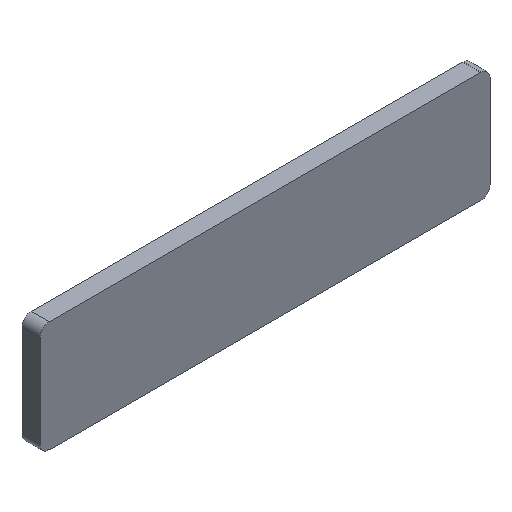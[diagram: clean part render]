
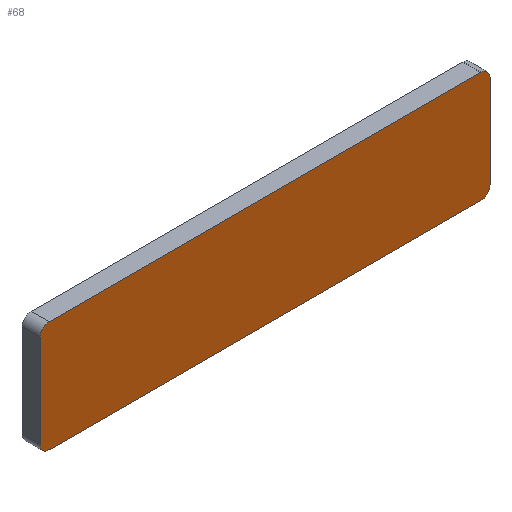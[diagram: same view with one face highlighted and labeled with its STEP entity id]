
A CAD part, isometric view. The second image highlights one B-rep face of the part: STEP entity #68.
In plain terms, the highlighted planar face has unit normal (0, -1, 0).
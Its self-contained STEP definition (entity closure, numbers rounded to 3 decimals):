
#4 = CARTESIAN_POINT ( 'NONE',  ( -7.5, 0., -1.85 ) ) ;
#8 = VERTEX_POINT ( 'NONE', #377 ) ;
#12 = LINE ( 'NONE', #172, #45 ) ;
#17 = VERTEX_POINT ( 'NONE', #298 ) ;
#19 = ORIENTED_EDGE ( 'NONE', *, *, #224, .F. ) ;
#25 = EDGE_CURVE ( 'NONE', #128, #144, #358, .T. ) ;
#26 = DIRECTION ( 'NONE',  ( 0., 0., 1. ) ) ;
#31 = PLANE ( 'NONE',  #137 ) ;
#35 = CIRCLE ( 'NONE', #235, 0.3 ) ;
#43 = CARTESIAN_POINT ( 'NONE',  ( -7.2, 0., 1.85 ) ) ;
#45 = VECTOR ( 'NONE', #74, 1000. ) ;
#50 = VERTEX_POINT ( 'NONE', #277 ) ;
#60 = CARTESIAN_POINT ( 'NONE',  ( 7.5, 0., -1.85 ) ) ;
#63 = DIRECTION ( 'NONE',  ( 0., -1., 0. ) ) ;
#65 = FACE_OUTER_BOUND ( 'NONE', #86, .T. ) ;
#68 = ADVANCED_FACE ( 'NONE', ( #65 ), #31, .F. ) ;
#74 = DIRECTION ( 'NONE',  ( 0., 0., 1. ) ) ;
#84 = EDGE_CURVE ( 'NONE', #8, #50, #96, .T. ) ;
#86 = EDGE_LOOP ( 'NONE', ( #319, #356, #232, #117, #19, #134, #372, #183 ) ) ;
#89 = VECTOR ( 'NONE', #99, 1000. ) ;
#95 = EDGE_CURVE ( 'NONE', #128, #293, #35, .T. ) ;
#96 = LINE ( 'NONE', #4, #350 ) ;
#99 = DIRECTION ( 'NONE',  ( 0., 0., -1. ) ) ;
#108 = CARTESIAN_POINT ( 'NONE',  ( -7.2, 0., -1.55 ) ) ;
#109 = EDGE_CURVE ( 'NONE', #17, #50, #248, .T. ) ;
#116 = DIRECTION ( 'NONE',  ( 0., -1., 0. ) ) ;
#117 = ORIENTED_EDGE ( 'NONE', *, *, #95, .T. ) ;
#118 = EDGE_CURVE ( 'NONE', #17, #125, #12, .T. ) ;
#125 = VERTEX_POINT ( 'NONE', #171 ) ;
#128 = VERTEX_POINT ( 'NONE', #365 ) ;
#134 = ORIENTED_EDGE ( 'NONE', *, *, #245, .T. ) ;
#137 = AXIS2_PLACEMENT_3D ( 'NONE', #162, #273, #26 ) ;
#144 = VERTEX_POINT ( 'NONE', #196 ) ;
#150 = VERTEX_POINT ( 'NONE', #43 ) ;
#162 = CARTESIAN_POINT ( 'NONE',  ( 0., 0., 0. ) ) ;
#164 = AXIS2_PLACEMENT_3D ( 'NONE', #292, #251, #309 ) ;
#171 = CARTESIAN_POINT ( 'NONE',  ( -7.5, 0., 1.55 ) ) ;
#172 = CARTESIAN_POINT ( 'NONE',  ( -7.5, 0., -1.85 ) ) ;
#182 = CARTESIAN_POINT ( 'NONE',  ( 7.2, 0., 1.85 ) ) ;
#183 = ORIENTED_EDGE ( 'NONE', *, *, #109, .T. ) ;
#188 = DIRECTION ( 'NONE',  ( 0., 0., 1. ) ) ;
#196 = CARTESIAN_POINT ( 'NONE',  ( 7.5, 0., -1.55 ) ) ;
#216 = CARTESIAN_POINT ( 'NONE',  ( 7.2, 0., 1.55 ) ) ;
#217 = CIRCLE ( 'NONE', #352, 0.3 ) ;
#219 = DIRECTION ( 'NONE',  ( 0., -1., 0. ) ) ;
#224 = EDGE_CURVE ( 'NONE', #150, #293, #285, .T. ) ;
#230 = DIRECTION ( 'NONE',  ( 0., 0., 1. ) ) ;
#232 = ORIENTED_EDGE ( 'NONE', *, *, #25, .F. ) ;
#235 = AXIS2_PLACEMENT_3D ( 'NONE', #216, #63, #188 ) ;
#238 = EDGE_CURVE ( 'NONE', #8, #144, #217, .T. ) ;
#245 = EDGE_CURVE ( 'NONE', #150, #125, #334, .T. ) ;
#248 = CIRCLE ( 'NONE', #281, 0.3 ) ;
#251 = DIRECTION ( 'NONE',  ( 0., -1., 0. ) ) ;
#252 = CARTESIAN_POINT ( 'NONE',  ( -7.5, 0., 1.85 ) ) ;
#268 = DIRECTION ( 'NONE',  ( -1., 0., 0. ) ) ;
#273 = DIRECTION ( 'NONE',  ( 0., 1., 0. ) ) ;
#277 = CARTESIAN_POINT ( 'NONE',  ( -7.2, 0., -1.85 ) ) ;
#281 = AXIS2_PLACEMENT_3D ( 'NONE', #108, #219, #341 ) ;
#283 = DIRECTION ( 'NONE',  ( 1., 0., 0. ) ) ;
#285 = LINE ( 'NONE', #252, #317 ) ;
#292 = CARTESIAN_POINT ( 'NONE',  ( -7.2, 0., 1.55 ) ) ;
#293 = VERTEX_POINT ( 'NONE', #182 ) ;
#298 = CARTESIAN_POINT ( 'NONE',  ( -7.5, 0., -1.55 ) ) ;
#309 = DIRECTION ( 'NONE',  ( 0., 0., 1. ) ) ;
#317 = VECTOR ( 'NONE', #283, 1000. ) ;
#319 = ORIENTED_EDGE ( 'NONE', *, *, #84, .F. ) ;
#334 = CIRCLE ( 'NONE', #164, 0.3 ) ;
#341 = DIRECTION ( 'NONE',  ( 0., 0., 1. ) ) ;
#350 = VECTOR ( 'NONE', #268, 1000. ) ;
#352 = AXIS2_PLACEMENT_3D ( 'NONE', #366, #116, #230 ) ;
#356 = ORIENTED_EDGE ( 'NONE', *, *, #238, .T. ) ;
#358 = LINE ( 'NONE', #60, #89 ) ;
#365 = CARTESIAN_POINT ( 'NONE',  ( 7.5, 0., 1.55 ) ) ;
#366 = CARTESIAN_POINT ( 'NONE',  ( 7.2, 0., -1.55 ) ) ;
#372 = ORIENTED_EDGE ( 'NONE', *, *, #118, .F. ) ;
#377 = CARTESIAN_POINT ( 'NONE',  ( 7.2, 0., -1.85 ) ) ;
